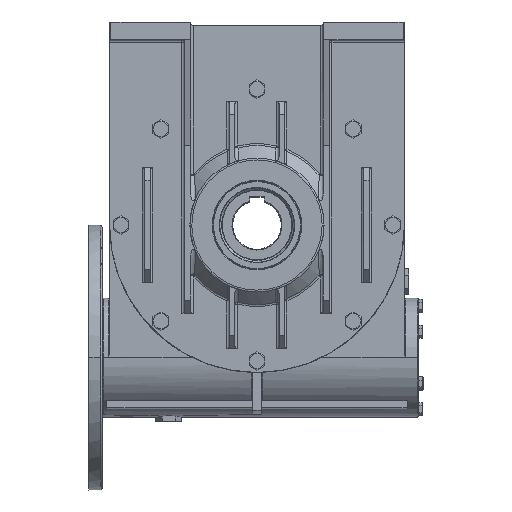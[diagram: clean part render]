
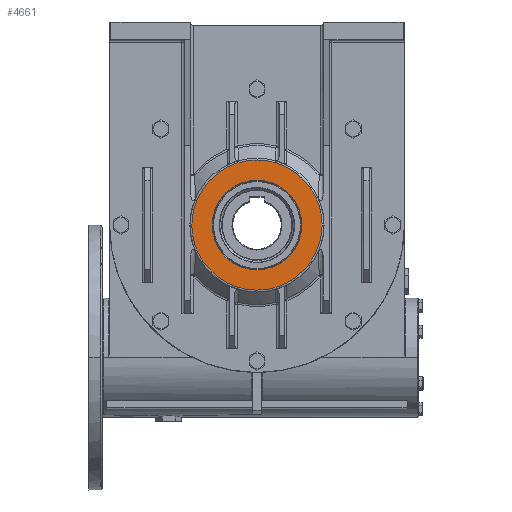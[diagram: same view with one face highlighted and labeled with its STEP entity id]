
A CAD part, top view. The second image highlights one B-rep face of the part: STEP entity #4661.
In plain terms, the highlighted planar face has unit normal (0, 0, 1).
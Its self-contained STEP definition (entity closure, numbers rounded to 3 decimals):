
#2993 = EDGE_CURVE ( 'NONE', #33612, #33251, #48301, .T. ) ;
#4661 = ADVANCED_FACE ( 'NONE', ( #51636, #51587 ), #51746, .T. ) ;
#4662 = ORIENTED_EDGE ( 'NONE', *, *, #2993, .F. ) ;
#4664 = ORIENTED_EDGE ( 'NONE', *, *, #33783, .F. ) ;
#4665 = EDGE_LOOP ( 'NONE', ( #4666, #4668 ) ) ;
#4666 = ORIENTED_EDGE ( 'NONE', *, *, #19744, .T. ) ;
#4668 = ORIENTED_EDGE ( 'NONE', *, *, #4764, .T. ) ;
#4707 = EDGE_LOOP ( 'NONE', ( #4662, #4664 ) ) ;
#4764 = EDGE_CURVE ( 'NONE', #19736, #19570, #51828, .T. ) ;
#19570 = VERTEX_POINT ( 'NONE', #73922 ) ;
#19736 = VERTEX_POINT ( 'NONE', #74175 ) ;
#19744 = EDGE_CURVE ( 'NONE', #19570, #19736, #74167, .T. ) ;
#33251 = VERTEX_POINT ( 'NONE', #70555 ) ;
#33612 = VERTEX_POINT ( 'NONE', #71184 ) ;
#33783 = EDGE_CURVE ( 'NONE', #33251, #33612, #71984, .T. ) ;
#48271 = CARTESIAN_POINT ( 'NONE',  ( -73.757, 150., 98.65 ) ) ;
#48272 = CARTESIAN_POINT ( 'NONE',  ( -73.757, 2.485, 98.65 ) ) ;
#48273 = CARTESIAN_POINT ( 'NONE',  ( 73.757, 2.485, 98.65 ) ) ;
#48297 = CARTESIAN_POINT ( 'NONE',  ( 73.757, 150., 98.65 ) ) ;
#48301 =( BOUNDED_CURVE ( )  B_SPLINE_CURVE ( 3, ( #48297, #48273, #48272, #48271 ),
 .UNSPECIFIED., .F., .T. ) 
 B_SPLINE_CURVE_WITH_KNOTS ( ( 4, 4 ),
 ( 0.75, 1.25 ),
 .UNSPECIFIED. ) 
 CURVE ( )  GEOMETRIC_REPRESENTATION_ITEM ( )  RATIONAL_B_SPLINE_CURVE ( ( 1., 0.333, 0.333, 1. ) ) 
 REPRESENTATION_ITEM ( '' )  );
#51587 = FACE_BOUND ( 'NONE', #4665, .T. ) ;
#51636 = FACE_OUTER_BOUND ( 'NONE', #4707, .T. ) ;
#51664 = DIRECTION ( 'NONE',  ( 0., -1., 0. ) ) ;
#51665 = DIRECTION ( 'NONE',  ( 0., 0., 1. ) ) ;
#51666 = CARTESIAN_POINT ( 'NONE',  ( 0., 112.5, 98.65 ) ) ;
#51745 = AXIS2_PLACEMENT_3D ( 'NONE', #51666, #51665, #51664 ) ;
#51746 = PLANE ( 'NONE',  #51745 ) ;
#51823 = DIRECTION ( 'NONE',  ( 1., 0., 0. ) ) ;
#51824 = DIRECTION ( 'NONE',  ( 0., 0., -1. ) ) ;
#51825 = CARTESIAN_POINT ( 'NONE',  ( 0., 150., 98.65 ) ) ;
#51827 = AXIS2_PLACEMENT_3D ( 'NONE', #51825, #51824, #51823 ) ;
#51828 = CIRCLE ( 'NONE', #51827, 50.728 ) ;
#70555 = CARTESIAN_POINT ( 'NONE',  ( -73.757, 150., 98.65 ) ) ;
#71184 = CARTESIAN_POINT ( 'NONE',  ( 73.757, 150., 98.65 ) ) ;
#71980 = CARTESIAN_POINT ( 'NONE',  ( 73.757, 150., 98.65 ) ) ;
#71981 = CARTESIAN_POINT ( 'NONE',  ( 73.757, 297.515, 98.65 ) ) ;
#71982 = CARTESIAN_POINT ( 'NONE',  ( -73.757, 297.515, 98.65 ) ) ;
#71983 = CARTESIAN_POINT ( 'NONE',  ( -73.757, 150., 98.65 ) ) ;
#71984 =( BOUNDED_CURVE ( )  B_SPLINE_CURVE ( 3, ( #71983, #71982, #71981, #71980 ),
 .UNSPECIFIED., .F., .T. ) 
 B_SPLINE_CURVE_WITH_KNOTS ( ( 4, 4 ),
 ( 0.25, 0.75 ),
 .UNSPECIFIED. ) 
 CURVE ( )  GEOMETRIC_REPRESENTATION_ITEM ( )  RATIONAL_B_SPLINE_CURVE ( ( 1., 0.333, 0.333, 1. ) ) 
 REPRESENTATION_ITEM ( '' )  );
#73922 = CARTESIAN_POINT ( 'NONE',  ( 50.728, 150., 98.65 ) ) ;
#74163 = DIRECTION ( 'NONE',  ( 1., 0., 0. ) ) ;
#74164 = DIRECTION ( 'NONE',  ( 0., 0., -1. ) ) ;
#74165 = CARTESIAN_POINT ( 'NONE',  ( 0., 150., 98.65 ) ) ;
#74166 = AXIS2_PLACEMENT_3D ( 'NONE', #74165, #74164, #74163 ) ;
#74167 = CIRCLE ( 'NONE', #74166, 50.728 ) ;
#74175 = CARTESIAN_POINT ( 'NONE',  ( -50.728, 150., 98.65 ) ) ;
